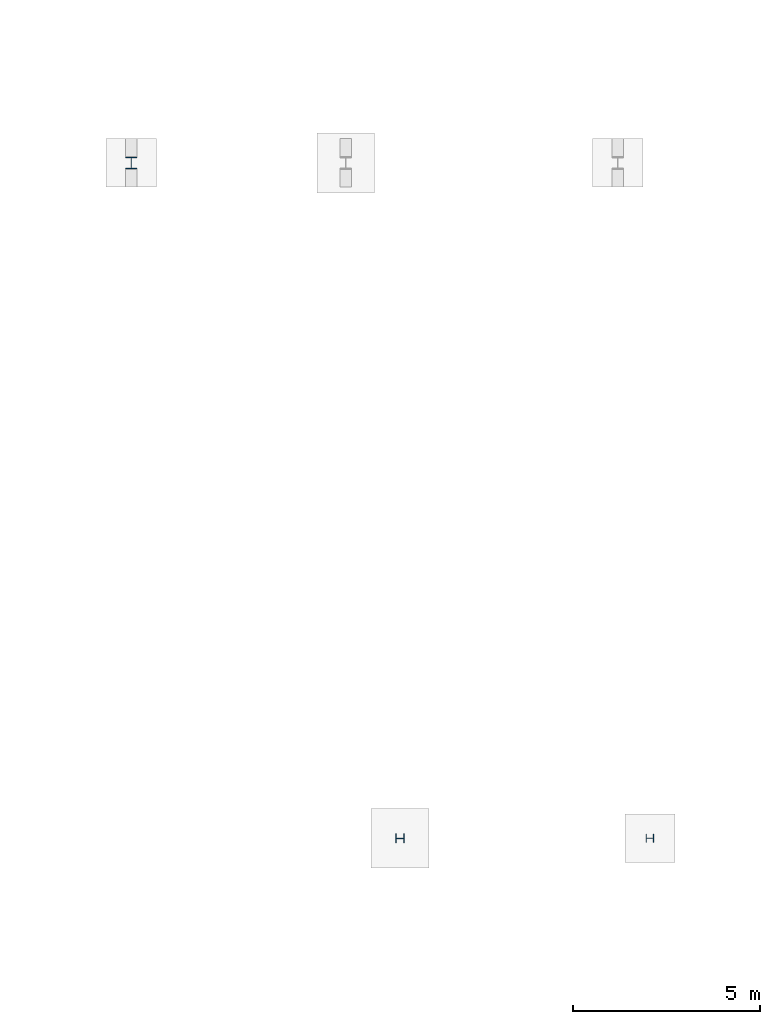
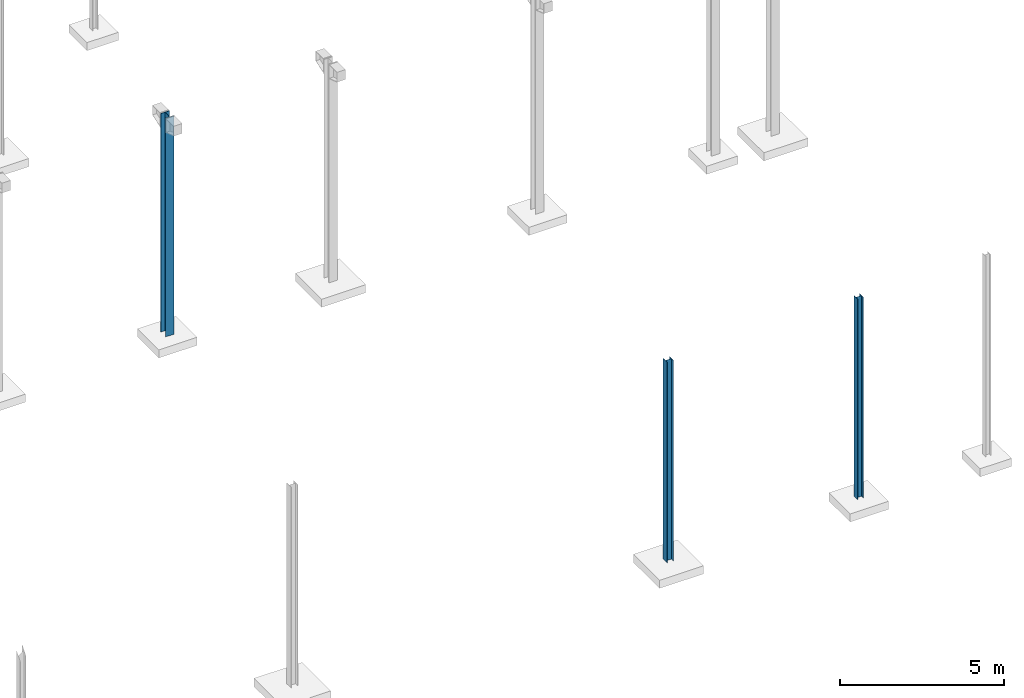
# One storey, part 37 of 59: 3 columns.
"""IFC2X3 building model written with IfcOpenShell, lengths in metres."""

from ifc_helpers import new_model, entity, si_unit, converted_unit, derived_unit, frame, origin, origin_with_axes, place, context, subcontext, project, spatial, polyline, outline, extrude, material, element, save


model = new_model("IFC2X3")

# Units and contexts
model_context = context("Model", 3, precision=1e-05, world=origin())
body_context = subcontext(model_context, "Body", "Model", "MODEL_VIEW")
ifc_project = project(units=[si_unit("LENGTHUNIT", "METRE"), si_unit("AREAUNIT", "SQUARE_METRE"), si_unit("VOLUMEUNIT", "CUBIC_METRE"), si_unit("MASSUNIT", "GRAM", prefix="KILO"), converted_unit("PLANEANGLEUNIT", "DEGREE", entity("IfcPlaneAngleMeasure", 0.0174532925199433), si_unit("PLANEANGLEUNIT", "RADIAN"), dimensions=[0, 0, 0, 0, 0, 0, 0]), derived_unit("THERMALTRANSMITTANCEUNIT", [(si_unit("POWERUNIT", "WATT"), 1), (si_unit("THERMODYNAMICTEMPERATUREUNIT", "KELVIN"), -1), (si_unit("LENGTHUNIT", "METRE"), -2)]), derived_unit("VOLUMETRICFLOWRATEUNIT", [(si_unit("LENGTHUNIT", "METRE"), 3), (converted_unit("TIMEUNIT", "hour", entity("IfcTimeMeasure", 3600.0), si_unit("TIMEUNIT", "SECOND"), dimensions=[0, 0, 1, 0, 0, 0, 0]), -1), (si_unit("LENGTHUNIT", "METRE"), -1)])], contexts=[model_context])

# Site, building, storey
site_placement = place(None, origin())
site = spatial("IfcSite", under=ifc_project, at=site_placement, Name="TWP_Speiseverteilzentrum SBW VZ II", CompositionType="ELEMENT")
building_placement = place(site_placement, origin())
building = spatial("IfcBuilding", under=site, at=building_placement, Name="Speiseverteilzentrum SBW VZ II", CompositionType="ELEMENT")
storey_placement = place(building_placement, frame((0.0, 0.0, 1.7307)))
storey = spatial("IfcBuildingStorey", under=building, at=storey_placement, Name="EG_Produktion_FFB", CompositionType="ELEMENT", Elevation=1.7307)

# Columns
ifc_material_1 = material(Name="S235")
column_1_placement = place(storey_placement, frame((94.2250000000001, 70.2451031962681, -1.95)))
element("IfcColumn", 1, at=column_1_placement, inside=storey, material=ifc_material_1, Name="Stahlstütze", context=body_context, shape_type="SweptSolid", body=[
    extrude(outline(polyline([(0.0, 0.0), (0.3, 0.0), (0.3, 0.0155), (0.1545, 0.0155), (0.1545, 0.2945), (0.3, 0.2945), (0.3, 0.31), (0.0, 0.31), (0.0, 0.2945), (0.1455, 0.2945), (0.1455, 0.0155), (0.0, 0.0155), (0.0, 0.0)])), origin_with_axes(), (0.0, 0.0, 1.0), 8.1393),
])
ifc_material_2 = material(Name="S235")
column_2_placement = place(storey_placement, frame((108.17, 52.1900000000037, -1.95)))
element("IfcColumn", 2, at=column_2_placement, inside=storey, material=ifc_material_2, Name="Stahlstütze", context=body_context, shape_type="SweptSolid", body=[
    extrude(outline(polyline([(0.21, 0.0), (0.21, 0.22), (0.199, 0.22), (0.199, 0.1135), (0.011, 0.1135), (0.011, 0.22), (0.0, 0.22), (0.0, 0.0), (0.011, 0.0), (0.011, 0.1065), (0.199, 0.1065), (0.199, 0.0), (0.21, 0.0)])), origin_with_axes(), (0.0, 0.0, 1.0), 7.4693),
])
ifc_material_3 = material(Name="S235")
column_3_placement = place(storey_placement, frame((101.46, 52.1797343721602, -1.95)))
element("IfcColumn", 3, at=column_3_placement, inside=storey, material=ifc_material_3, Name="Stahlstütze", context=body_context, shape_type="SweptSolid", body=[
    extrude(outline(polyline([(0.23, 0.0), (0.23, 0.24), (0.218, 0.24), (0.218, 0.12375), (0.012, 0.12375), (0.012, 0.24), (0.0, 0.24), (0.0, 0.0), (0.012, 0.0), (0.012, 0.11625), (0.218, 0.11625), (0.218, 0.0), (0.23, 0.0)])), origin_with_axes(), (0.0, 0.0, 1.0), 7.4693),
])

save(model, "model.ifc")
